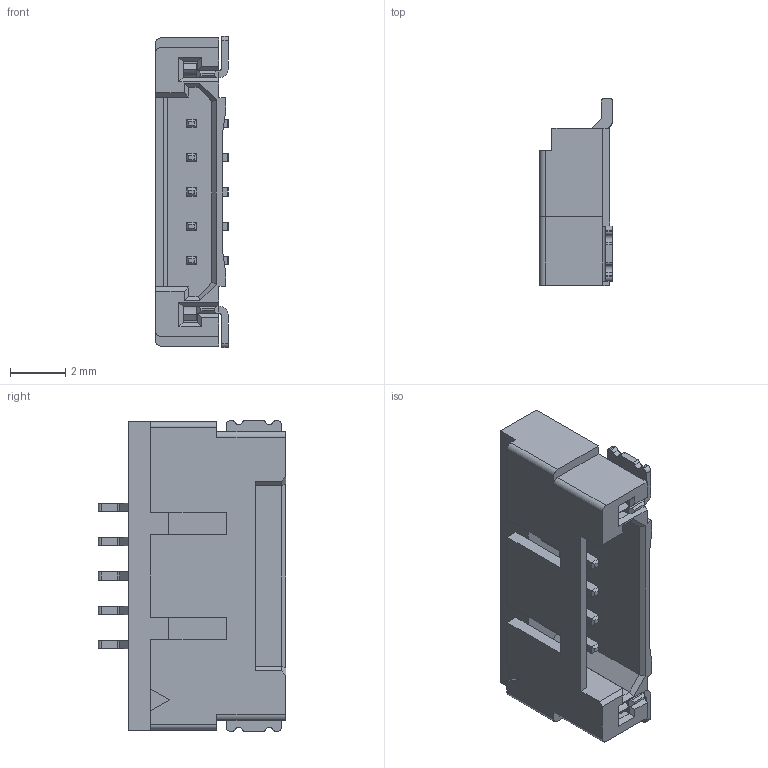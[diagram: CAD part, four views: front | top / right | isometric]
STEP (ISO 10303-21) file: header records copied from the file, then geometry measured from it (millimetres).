
FILE_DESCRIPTION (( 'STEP AP203' ), '1' );
FILE_NAME ('HC-DF14A125-5PWT-04（1.25 单排 卧贴-HCTL）.STEP', '2024-09-14T08:42:36', ( '' ), ( '' ), 'SwSTEP 2.0', 'SolidWorks 2022', '' );
FILE_SCHEMA (( 'CONFIG_CONTROL_DESIGN' ));
Length unit declared in the file: millimetre
Products named in the file (1): HC-DF14A125-5PWT-04（1.25 单排 卧贴-HCTL）
Bounding box: 2.65 x 6.8 x 11.3 mm (x, y, z)
Volume: 86.8 mm3; surface area: 360 mm2
Topology: 1 solids, 1 shells, 349 faces, 945 edges, 604 vertices
Faces by surface type: plane 299, cylinder 50
Entity records: 10830 total; most frequent: CARTESIAN_POINT 1899, ORIENTED_EDGE 1890, DIRECTION 1747, EDGE_CURVE 945, LINE 843, VECTOR 843, VERTEX_POINT 604, AXIS2_PLACEMENT_3D 452
